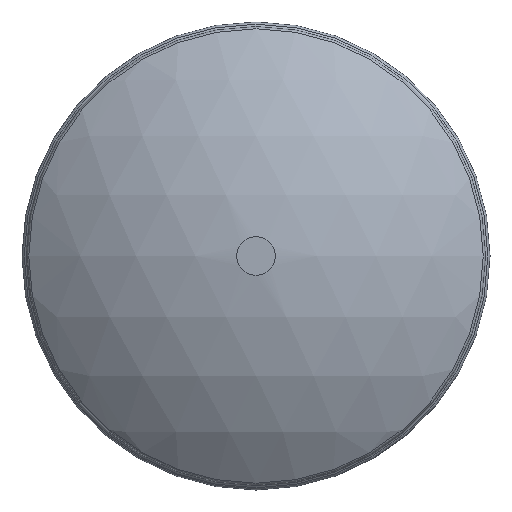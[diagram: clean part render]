
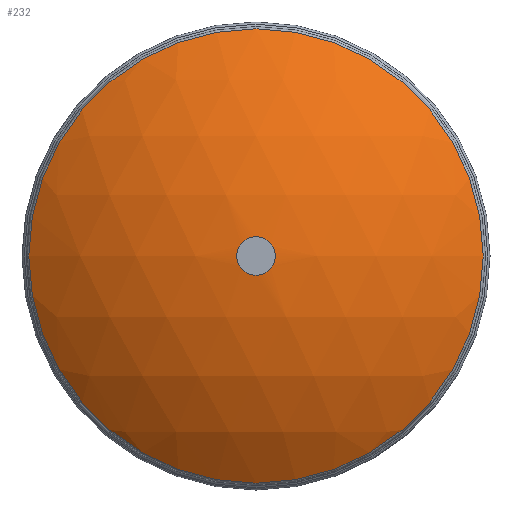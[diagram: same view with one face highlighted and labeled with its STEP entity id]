
A CAD part, left-side view. The second image highlights one B-rep face of the part: STEP entity #232.
In plain terms, the highlighted spherical face has radius 258.826 mm.
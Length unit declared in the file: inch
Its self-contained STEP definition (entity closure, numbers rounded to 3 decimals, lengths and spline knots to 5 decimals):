
#45=FACE_BOUND('',#75,.T.);
#47=SPHERICAL_SURFACE('',#278,10.19);
#62=FACE_OUTER_BOUND('',#74,.T.);
#74=EDGE_LOOP('',(#185));
#75=EDGE_LOOP('',(#186));
#90=CIRCLE('',#259,0.525);
#93=CIRCLE('',#264,6.18927);
#112=VERTEX_POINT('',#408);
#114=VERTEX_POINT('',#415);
#131=EDGE_CURVE('',#112,#112,#90,.T.);
#134=EDGE_CURVE('',#114,#114,#93,.T.);
#185=ORIENTED_EDGE('',*,*,#134,.F.);
#186=ORIENTED_EDGE('',*,*,#131,.T.);
#232=ADVANCED_FACE('',(#62,#45),#47,.T.);
#259=AXIS2_PLACEMENT_3D('',#410,#311,#312);
#264=AXIS2_PLACEMENT_3D('',#417,#321,#322);
#278=AXIS2_PLACEMENT_3D('',#440,#351,#352);
#311=DIRECTION('center_axis',(1.,0.,0.));
#312=DIRECTION('ref_axis',(0.,0.,1.));
#321=DIRECTION('center_axis',(1.,0.,0.));
#322=DIRECTION('ref_axis',(0.,0.,-1.));
#351=DIRECTION('center_axis',(0.,0.,1.));
#352=DIRECTION('ref_axis',(-1.,0.,0.));
#408=CARTESIAN_POINT('',(0.01353,0.,-0.525));
#410=CARTESIAN_POINT('Origin',(0.01353,0.,
0.));
#415=CARTESIAN_POINT('',(2.095,-6.18927,0.));
#417=CARTESIAN_POINT('Origin',(2.095,0.,0.));
#440=CARTESIAN_POINT('Origin',(10.19,0.,0.));
